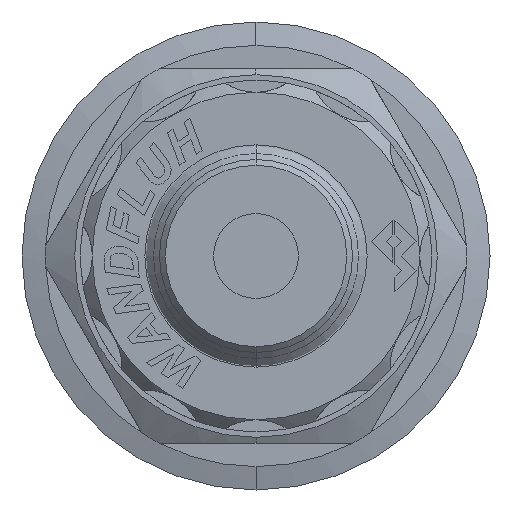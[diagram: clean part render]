
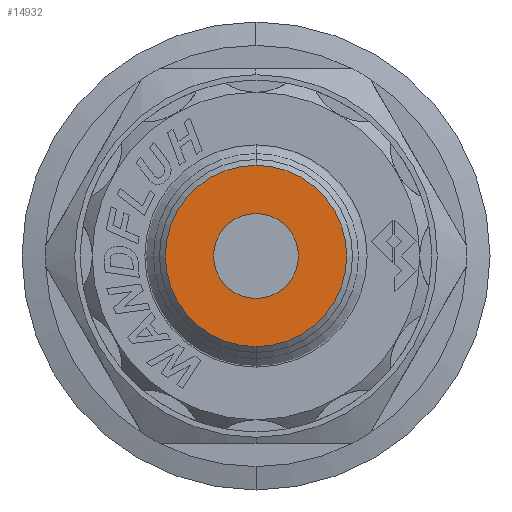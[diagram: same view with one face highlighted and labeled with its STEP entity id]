
A CAD part, left-side view. The second image highlights one B-rep face of the part: STEP entity #14932.
In plain terms, the highlighted planar face has unit normal (-1, 0, 0).
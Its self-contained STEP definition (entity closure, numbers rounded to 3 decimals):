
#338 = CARTESIAN_POINT ( 'NONE',  ( -70.9, 0., -3.625 ) ) ;
#350 = CARTESIAN_POINT ( 'NONE',  ( -70.9, 0., 3.625 ) ) ;
#530 = CARTESIAN_POINT ( 'NONE',  ( -70.9, 0., 7.75 ) ) ;
#1504 = PLANE ( 'NONE',  #13598 ) ;
#1511 = CARTESIAN_POINT ( 'NONE',  ( -70.9, -3.625, 0. ) ) ;
#1512 = DIRECTION ( 'NONE',  ( -1., 0., 0. ) ) ;
#1513 = DIRECTION ( 'NONE',  ( 0., 0., -1. ) ) ;
#4000 = CIRCLE ( 'NONE', #17759, 7.75 ) ;
#5860 = CARTESIAN_POINT ( 'NONE',  ( -70.9, 0., 0. ) ) ;
#5861 = DIRECTION ( 'NONE',  ( -1., 0., 0. ) ) ;
#5862 = DIRECTION ( 'NONE',  ( 0., 0., -1. ) ) ;
#8192 = CARTESIAN_POINT ( 'NONE',  ( -70.9, 0., -7.75 ) ) ;
#9381 = VERTEX_POINT ( 'NONE', #350 ) ;
#9510 = VERTEX_POINT ( 'NONE', #530 ) ;
#9727 = VERTEX_POINT ( 'NONE', #338 ) ;
#11218 = EDGE_CURVE ( 'NONE', #18324, #9510, #20378, .T. ) ;
#11269 = EDGE_CURVE ( 'NONE', #9727, #9381, #20286, .T. ) ;
#11301 = EDGE_CURVE ( 'NONE', #9381, #9727, #20512, .T. ) ;
#11915 = EDGE_CURVE ( 'NONE', #9510, #18324, #4000, .T. ) ;
#13598 = AXIS2_PLACEMENT_3D ( 'NONE', #1511, #1512, #1513 ) ;
#14385 = DIRECTION ( 'NONE',  ( 0., 0., -1. ) ) ;
#14386 = DIRECTION ( 'NONE',  ( -1., 0., 0. ) ) ;
#14492 = CARTESIAN_POINT ( 'NONE',  ( -70.9, 0., 0. ) ) ;
#14508 = DIRECTION ( 'NONE',  ( 0., 0., -1. ) ) ;
#14529 = DIRECTION ( 'NONE',  ( -1., 0., 0. ) ) ;
#14577 = DIRECTION ( 'NONE',  ( 0., 0., -1. ) ) ;
#14579 = DIRECTION ( 'NONE',  ( -1., 0., 0. ) ) ;
#14580 = CARTESIAN_POINT ( 'NONE',  ( -70.9, 0., 0. ) ) ;
#14624 = CARTESIAN_POINT ( 'NONE',  ( -70.9, 0., 0. ) ) ;
#14932 = ADVANCED_FACE ( 'NONE', ( #21278, #21273 ), #1504, .T. ) ;
#15858 = ORIENTED_EDGE ( 'NONE', *, *, #11218, .T. ) ;
#15893 = ORIENTED_EDGE ( 'NONE', *, *, #11269, .F. ) ;
#15968 = ORIENTED_EDGE ( 'NONE', *, *, #11301, .F. ) ;
#16056 = ORIENTED_EDGE ( 'NONE', *, *, #11915, .T. ) ;
#17759 = AXIS2_PLACEMENT_3D ( 'NONE', #5860, #5861, #5862 ) ;
#17841 = AXIS2_PLACEMENT_3D ( 'NONE', #14580, #14579, #14577 ) ;
#17844 = AXIS2_PLACEMENT_3D ( 'NONE', #14492, #14386, #14385 ) ;
#17851 = AXIS2_PLACEMENT_3D ( 'NONE', #14624, #14529, #14508 ) ;
#18324 = VERTEX_POINT ( 'NONE', #8192 ) ;
#19217 = EDGE_LOOP ( 'NONE', ( #16056, #15858 ) ) ;
#19233 = EDGE_LOOP ( 'NONE', ( #15893, #15968 ) ) ;
#20286 = CIRCLE ( 'NONE', #17844, 3.625 ) ;
#20378 = CIRCLE ( 'NONE', #17851, 7.75 ) ;
#20512 = CIRCLE ( 'NONE', #17841, 3.625 ) ;
#21273 = FACE_BOUND ( 'NONE', #19233, .T. ) ;
#21278 = FACE_OUTER_BOUND ( 'NONE', #19217, .T. ) ;
